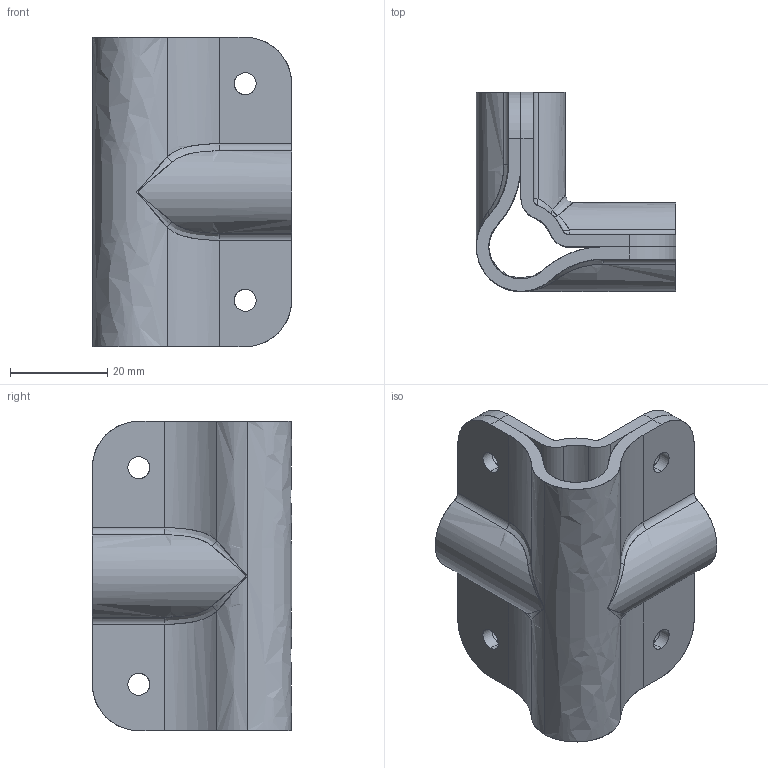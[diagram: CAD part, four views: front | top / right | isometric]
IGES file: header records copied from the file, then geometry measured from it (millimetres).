
Start section: SolidWorks IGES file using analytic representation for surfaces
Global section: file name: C:\Working\.5 Inch Coupling\DRP-002-0100-00.IGS; native system: SolidWorks 2010; preprocessor: SolidWorks 2010; author: mbush2; date: 100812.135630; units: inch
Bounding box: 40.89 x 40.89 x 63.5 mm (x, y, z)
Surface area: 18991.1 mm2 (no closed solid volume)
Topology: 0 solids, 0 shells, 136 faces, 1936 edges, 1928 vertices
Faces by surface type: revolution 86, bspline 50
